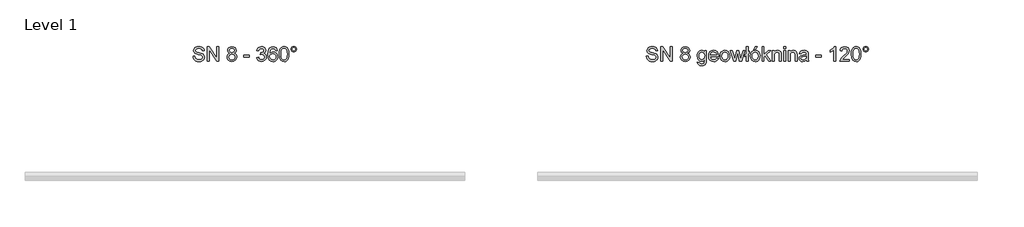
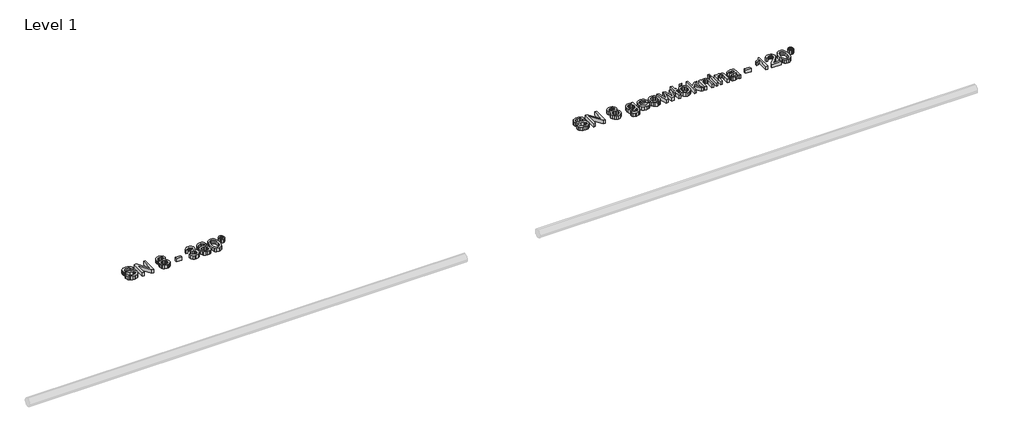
# One storey, part 5 of 9: 2 proxies.
"""IFC4 building model written with IfcOpenShell, lengths in millimetres."""

import ifcopenshell
import ifcopenshell.guid

model = None  # the IFC model being written
_history = None  # IfcOwnerHistory: only IFC2X3 demands one
_inside = {}  # id of a spatial element -> (the spatial element, [elements in it])
_under = {}  # id of a project, library or spatial element -> (it, [spatial elements below it])
_declared = {}  # id of a project -> (the project, [libraries it declares])
_typed = {}  # id of a type object -> (the type object, [elements of that type])
_made_of = {}  # id of a material, layer set ... -> (it, [elements and type objects made of it])


def new_model(schema):
    """Start an empty IFC model of exactly this schema.

    Asked for "IFC4X3", IfcOpenShell would pick the latest addendum, in which some entities
    have other attributes; the version numbers below select the first issue.
    IFC2X3 requires an IfcOwnerHistory on every rooted entity: one is made here for all.
    """
    global model, _history
    if schema == "IFC4X3":
        model = ifcopenshell.file(schema_version=(4, 3, 0, 0))
    else:
        model = ifcopenshell.file(schema=schema)
    _inside.clear()
    _under.clear()
    _declared.clear()
    _typed.clear()
    _made_of.clear()
    _history = None
    if model.schema == "IFC2X3":
        org = make("IfcOrganization", Name="unknown")
        user = make(
            "IfcPersonAndOrganization",
            ThePerson=make("IfcPerson", FamilyName="unknown"),
            TheOrganization=org,
        )
        app = make(
            "IfcApplication",
            ApplicationDeveloper=org,
            Version="unknown",
            ApplicationFullName="unknown",
            ApplicationIdentifier="unknown",
        )
        _history = make(
            "IfcOwnerHistory",
            OwningUser=user,
            OwningApplication=app,
            ChangeAction="ADDED",
            CreationDate=0,
        )
    return model


def make(cls, **values):
    """One entity of the class cls with the attributes given. An attribute that is None is left unset."""
    return model.create_entity(
        cls, **{name: value for name, value in values.items() if value is not None}
    )


def rooted(cls, **values):
    """An entity with a GlobalId (a new one), such as an element, a storey or a relation."""
    return make(cls, GlobalId=ifcopenshell.guid.new(), OwnerHistory=_history, **values)


def si_unit(unit_type, name, prefix=None):
    """IfcSIUnit, for example si_unit("LENGTHUNIT", "METRE", prefix="MILLI")."""
    return make("IfcSIUnit", UnitType=unit_type, Prefix=prefix, Name=name)


def assignment(units):
    """IfcUnitAssignment: the units of a project."""
    return None if units is None else make("IfcUnitAssignment", Units=units)


def point(xyz):
    """IfcCartesianPoint."""
    return None if xyz is None else make("IfcCartesianPoint", Coordinates=xyz)


def direction(xyz):
    """IfcDirection."""
    return None if xyz is None else make("IfcDirection", DirectionRatios=xyz)


def frame(location, z_axis=None, x_axis=None):
    """IfcAxis2Placement3D, a coordinate frame: its origin and axes. An axis left out is left unset."""
    return make(
        "IfcAxis2Placement3D",
        Location=point(location),
        Axis=direction(z_axis),
        RefDirection=direction(x_axis),
    )


def origin():
    """The frame at (0, 0, 0) with its axes left unset."""
    return frame((0.0, 0.0, 0.0))


def origin_with_axes():
    """The frame at (0, 0, 0) with the z axis (0, 0, 1) and the x axis (1, 0, 0) written out."""
    return frame((0.0, 0.0, 0.0), z_axis=(0.0, 0.0, 1.0), x_axis=(1.0, 0.0, 0.0))


def place(relative_to, where):
    """IfcLocalPlacement: puts the frame where relative to a parent placement (None: the world)."""
    return make(
        "IfcLocalPlacement", PlacementRelTo=relative_to, RelativePlacement=where
    )


def context(
    kind, dimensions, precision=None, world=None, true_north=None, identifier=None
):
    """IfcGeometricRepresentationContext, for example the 3D "Model" context."""
    return make(
        "IfcGeometricRepresentationContext",
        ContextIdentifier=identifier,
        ContextType=kind,
        CoordinateSpaceDimension=dimensions,
        Precision=precision,
        WorldCoordinateSystem=world,
        TrueNorth=true_north,
    )


def project(units=None, contexts=None):
    """IfcProject with its units and contexts."""
    return rooted(
        "IfcProject",
        Name="project",
        RepresentationContexts=contexts,
        UnitsInContext=assignment(units),
    )


def spatial(cls, under=None, at=None, **own):
    """A site, building, storey or space (cls), placed at a placement, below another one or the project."""
    s = rooted(cls, ObjectPlacement=at, **own)
    if under is not None:
        _under.setdefault(under.id(), (under, []))[1].append(s)
    return s


def polyline(points):
    """IfcPolyline through the points."""
    return make("IfcPolyline", Points=[point(p) for p in points])


def outline(outer, holes=None, kind="AREA"):
    """IfcArbitraryClosedProfileDef: a profile drawn as a closed curve; with holes, ...WithVoids."""
    if holes is None:
        return make("IfcArbitraryClosedProfileDef", ProfileType=kind, OuterCurve=outer)
    return make(
        "IfcArbitraryProfileDefWithVoids",
        ProfileType=kind,
        OuterCurve=outer,
        InnerCurves=holes,
    )


def extrude(swept, where, along, depth):
    """IfcExtrudedAreaSolid: the profile swept, set in the frame where, extruded along a direction by depth."""
    return make(
        "IfcExtrudedAreaSolid",
        SweptArea=swept,
        Position=where,
        ExtrudedDirection=direction(along),
        Depth=depth,
    )


def shape(context_of_items, identifier, shape_type, items):
    """IfcShapeRepresentation: the items that make up one representation, for example the "Body"."""
    return make(
        "IfcShapeRepresentation",
        ContextOfItems=context_of_items,
        RepresentationIdentifier=identifier,
        RepresentationType=shape_type,
        Items=items,
    )


def made_of(thing, what):
    """Note that an element or type object is made of a material, layer set ...; save() writes the relation."""
    if what is not None:
        _made_of.setdefault(what.id(), (what, []))[1].append(thing)
    return thing


def element(
    cls,
    number,
    at=None,
    inside=None,
    cuts=None,
    type_object=None,
    material=None,
    context=None,
    identifier="Body",
    shape_type=None,
    held_by="IfcProductDefinitionShape",
    body=None,
    shapes=None,
    **own,
):
    """One element of the class cls, such as IfcWall. Its Tag is "e" and its number.

    at: its placement. inside: the storey or other place that contains it. cuts: it is an
    opening in that element (IfcRelVoidsElement). A single representation is given by context,
    identifier, shape_type and body (its items); several are given by shapes. held_by: the class
    of the entity that holds the representations. save() writes the other relations.
    """
    e = rooted(cls, Tag="e%d" % number, ObjectPlacement=at, **own)
    if body is not None:
        shapes = [shape(context, identifier, shape_type, body)]
    if shapes is not None:
        e.Representation = make(held_by, Representations=shapes)
    if inside is not None:
        _inside.setdefault(inside.id(), (inside, []))[1].append(e)
    if cuts is not None:
        rooted(
            "IfcRelVoidsElement", RelatingBuildingElement=cuts, RelatedOpeningElement=e
        )
    if type_object is not None:
        _typed.setdefault(type_object.id(), (type_object, []))[1].append(e)
    return made_of(e, material)


def aggregate(whole, parts):
    """IfcRelAggregates: a whole, such as a stair, and the parts it consists of."""
    return rooted("IfcRelAggregates", RelatingObject=whole, RelatedObjects=parts)


def save(model, path):
    """Write the relations noted so far, then the file.

    IfcRelAggregates (storeys below a building ...), IfcRelContainedInSpatialStructure (elements
    in a storey), IfcRelDefinesByType, IfcRelAssociatesMaterial and IfcRelDeclares: one each for
    every whole, place, type object, material and project.
    """
    for whole, parts in _under.values():
        aggregate(whole, parts)
    for where, things in _inside.values():
        rooted(
            "IfcRelContainedInSpatialStructure",
            RelatedElements=things,
            RelatingStructure=where,
        )
    for kind, things in _typed.values():
        rooted("IfcRelDefinesByType", RelatedObjects=things, RelatingType=kind)
    for what, things in _made_of.values():
        rooted("IfcRelAssociatesMaterial", RelatedObjects=things, RelatingMaterial=what)
    for by, libraries in _declared.values():
        rooted("IfcRelDeclares", RelatingContext=by, RelatedDefinitions=libraries)
    model.write(path)


model = new_model("IFC4")

# Units and contexts
model_context = context("Model", 3, world=origin())
ifc_project = project(units=[si_unit("LENGTHUNIT", "METRE", prefix="MILLI")], contexts=[model_context])

# Site, building, storey
site = spatial("IfcSite", under=ifc_project)
building = spatial("IfcBuilding", under=site)
storey = spatial("IfcBuildingStorey", under=building, Name="Level 1", Elevation=0.0)

# Proxies
placement = place(None, origin())
element("IfcBuildingElementProxy", 1, Name="200mm Arial", ObjectType="200mm Arial", at=placement, inside=storey, context=model_context, shape_type="SweptSolid", body=[
    extrude(outline(polyline([(-742.1398156, 2231.0128426), (-717.0257381, 2231.0128426), (-708.9323342, 2205.8742396), (-700.8021421, 2196.983758), (-689.1648083, 2189.9817374), (-674.9400379, 2185.4383947), (-659.0475357, 2183.9239472), (-632.8052867, 2188.5102094), (-615.8581894, 2201.1162991), (-610.2909086, 2217.9652945), (-614.4602379, 2233.6370675), (-620.8123336, 2239.8358791), (-631.5299624, 2245.0414093), (-668.0974328, 2254.6308667), (-707.4608062, 2267.0162272), (-719.9626627, 2275.4652503), (-728.8224874, 2285.7046325), (-734.1015941, 2297.5136446), (-735.8612963, 2310.6715573), (-733.6846611, 2325.3807057), (-727.1547557, 2339.0965728), (-716.4432583, 2350.7216438), (-701.7218471, 2359.1584042), (-684.0512486, 2364.2903581), (-664.4921892, 2366.0010093), (-643.3021863, 2364.2106503), (-624.7609337, 2358.8395732), (-609.5306191, 2349.9981425), (-598.2734301, 2337.796723), (-591.1487821, 2322.9956041), (-588.3160907, 2306.3550752), (-613.4301683, 2306.3550752), (-618.0409559, 2321.3401351), (-627.6549387, 2332.1558658), (-642.6767869, 2338.7041653), (-663.5111705, 2340.8869318), (-684.8360635, 2338.7286908), (-699.4655042, 2332.2539676), (-707.9267901, 2322.725824), (-710.7472187, 2311.4073212), (-708.7483932, 2301.7565502), (-702.7519167, 2293.9942401), (-688.5761971, 2287.0535332), (-661.745337, 2279.9656734), (-617.305192, 2267.3595837), (-602.988451, 2258.2483729), (-593.0004548, 2247.0034466), (-587.132737, 2233.7474321), (-585.176831, 2218.6029566), (-587.4270426, 2203.121256), (-594.1776772, 2188.5592603), (-605.1528234, 2176.026747), (-620.0765696, 2166.6334934), (-638.0230796, 2160.7657756), (-658.066517, 2158.8098696), (-682.6716911, 2160.9190598), (-702.923595, 2167.2466301), (-719.0552205, 2177.8171061), (-731.2995595, 2192.6550132), (-739.1599715, 2210.7302819), (-742.1398156, 2231.0128426)])), origin_with_axes(), (0.0, 0.0, 1.0), 50.0),
    extrude(outline(polyline([(-547.5057147, 2161.9491293), (-547.5057147, 2362.8617496), (-520.6258036, 2362.8617496), (-415.6568077, 2203.6914731), (-415.6568077, 2362.8617496), (-390.5427301, 2362.8617496), (-390.5427301, 2161.9491293), (-417.4226412, 2161.9491293), (-522.3916372, 2321.1684569), (-522.3916372, 2161.9491293), (-547.5057147, 2161.9491293)])), origin_with_axes(), (0.0, 0.0, 1.0), 50.0),
    extrude(outline(polyline([(-240.9373854, 2272.6080335), (-254.3834723, 2279.2299094), (-263.8196455, 2288.2062301), (-269.3930577, 2299.3530545), (-271.2508618, 2312.4864418), (-267.2041599, 2332.1190776), (-255.064054, 2348.3426736), (-236.1917077, 2359.2319806), (-211.9482842, 2362.8617496), (-187.5577079, 2359.1461415), (-168.4401069, 2347.999317), (-156.0792719, 2331.5182037), (-151.9589935, 2311.7997287), (-153.7922721, 2299.0894058), (-159.292108, 2288.1326537), (-168.5198147, 2279.2115153), (-181.5367059, 2272.6080335), (-166.0795308, 2264.6433883), (-154.8284731, 2252.914084), (-147.9674739, 2237.9842064), (-145.6804741, 2220.4178411), (-150.2176854, 2196.4074096), (-163.8293192, 2176.5663073), (-184.8476439, 2163.2489791), (-211.6049277, 2158.8098696), (-238.3622115, 2163.2673732), (-259.3805361, 2176.6398837), (-272.9921699, 2196.6710583), (-277.5293812, 2221.1045542), (-275.150411, 2239.3515011), (-268.0135003, 2254.3610865), (-256.4865311, 2265.6182756), (-240.9373854, 2272.6080335)]), holes=[polyline([(-246.1367843, 2311.7506778), (-243.9110982, 2300.7877943), (-237.23404, 2292.0322028), (-226.3018134, 2286.2932437), (-211.3106221, 2284.3802573), (-196.6689187, 2286.280981), (-185.9022389, 2291.9831519), (-179.280363, 2300.4444378), (-177.0730711, 2310.6225063), (-179.3539394, 2321.186851), (-186.1965445, 2329.9240483), (-197.1103771, 2335.7917662), (-211.6049277, 2337.7476721), (-226.1914488, 2335.8346857), (-237.0868872, 2330.0957266), (-243.87431, 2321.6834916), (-246.1367843, 2311.7506778)]), polyline([(-252.4153037, 2221.987471), (-248.2214489, 2203.0783364), (-242.4150448, 2194.9665384), (-233.3835418, 2188.9271423), (-211.4087239, 2183.9239472), (-194.3144739, 2186.5543035), (-181.487655, 2194.4453722), (-173.4678275, 2206.3954057), (-170.7945517, 2221.202656), (-173.5536666, 2236.2612924), (-181.8310115, 2248.4749746), (-194.952136, 2256.5683785), (-212.2425898, 2259.2661798), (-229.0977165, 2256.6051667), (-241.7957767, 2248.6221274), (-249.7604219, 2236.6414371), (-252.4153037, 2221.987471)])]), origin_with_axes(), (0.0, 0.0, 1.0), 50.0),
    extrude(outline(polyline([(-51.5026834, 2221.5950635), (-51.5026834, 2246.709141), (26.9788089, 2246.709141), (26.9788089, 2221.5950635), (-51.5026834, 2221.5950635)])), origin_with_axes(), (0.0, 0.0, 1.0), 50.0),
    extrude(outline(polyline([(127.4351191, 2215.3165441), (152.5491966, 2218.4558038), (158.1716598, 2202.6736662), (166.4060851, 2192.0173511), (177.6571428, 2185.9472982), (192.329503, 2183.9239472), (209.5463804, 2186.7075876), (222.8391832, 2195.0585089), (231.3372573, 2207.5174458), (234.1699486, 2222.6251331), (231.3617827, 2236.9663995), (222.937285, 2248.5976019), (210.1840425, 2256.3047297), (194.3896422, 2258.8737723), (176.7803574, 2256.1269201), (179.5762605, 2281.2409976), (183.598437, 2280.946692), (198.6448106, 2282.7493138), (212.0970289, 2288.1571792), (221.5883844, 2297.3051781), (224.7521695, 2310.3282007), (222.4590384, 2321.1745882), (215.5796451, 2329.9730993), (205.0827455, 2335.8040289), (191.9370956, 2337.7476721), (178.7669201, 2335.7856348), (168.0002404, 2329.8995229), (160.1398285, 2320.0893363), (155.6884563, 2306.3550752), (130.5743788, 2309.4943349), (137.9688069, 2332.0455012), (151.1267196, 2348.8822338), (169.1284119, 2359.3668707), (191.0541788, 2362.8617496), (206.8424477, 2361.1388356), (221.3431297, 2355.9700936), (233.5690747, 2347.815376), (242.5331326, 2337.1345354), (248.0329685, 2324.8288827), (249.8662471, 2311.7997287), (248.124939, 2299.6596229), (242.9010146, 2288.6476885), (234.2680505, 2279.2666976), (222.2996229, 2272.0194223), (238.0204468, 2265.6673265), (249.6700433, 2254.8515959), (256.8805305, 2240.1608415), (259.2840262, 2222.1836747), (254.4770348, 2197.7072593), (240.0560605, 2177.2530203), (218.2897092, 2163.4206573), (191.4465862, 2158.8098696), (167.1663746, 2162.746207), (147.3988487, 2174.555219), (133.6523248, 2192.618225), (127.4351191, 2215.3165441)])), origin_with_axes(), (0.0, 0.0, 1.0), 50.0),
    extrude(outline(polyline([(409.9684914, 2309.4943349), (384.8544138, 2306.3550752), (375.3385329, 2327.2998234), (363.9464538, 2335.1357099), (350.1754044, 2337.7476721), (327.5138735, 2331.6653565), (318.0777004, 2322.057505), (310.3705726, 2308.8321473), (305.1650423, 2290.1253478), (303.2336618, 2264.0731712), (313.3074971, 2275.8270009), (325.380158, 2284.1104772), (338.7771939, 2289.0217018), (352.8241548, 2290.6587767), (376.025246, 2286.1828791), (395.4984662, 2272.7551863), (408.7054299, 2252.2396337), (413.1077511, 2226.5001568), (411.0353492, 2208.5168586), (404.8181434, 2191.8456728), (394.9711687, 2177.7067415), (382.0094597, 2167.3202065), (366.5216278, 2160.9374539), (349.0962839, 2158.8098696), (320.6038234, 2164.4507269), (297.9116356, 2181.3732987), (289.2526132, 2194.4821604), (283.0675971, 2211.2453167), (278.1195843, 2255.7345126), (283.6132888, 2305.7542013), (290.4804193, 2324.8319484), (300.0944022, 2339.9549641), (310.5146597, 2349.9766828), (322.5965175, 2357.1350532), (351.7450343, 2362.8617496), (373.7811658, 2359.3178198), (391.4272388, 2348.6860301), (403.7880739, 2331.8002465), (409.9684914, 2309.4943349)]), holes=[polyline([(303.2336618, 2226.8925642), (309.0461974, 2205.1384756), (324.4972412, 2189.3440752), (347.1342466, 2183.9239472), (363.7073305, 2186.7321131), (376.7364845, 2195.1566108), (385.1793763, 2208.4003626), (387.9936735, 2225.6662909), (385.2161645, 2242.2393748), (376.8836373, 2254.8761213), (363.6337541, 2262.8775547), (346.104177, 2265.5446992), (329.5556186, 2262.8775547), (315.7171242, 2254.8761213), (306.3545274, 2242.5459431), (303.2336618, 2226.8925642)])]), origin_with_axes(), (0.0, 0.0, 1.0), 50.0),
    extrude(outline(polyline([(435.0825689, 2260.7867587), (436.9281103, 2292.9457765), (442.4647343, 2318.5932829), (451.6372587, 2338.1216855), (464.3905012, 2351.9233917), (480.8164323, 2360.1271601), (501.0070225, 2362.8617496), (516.4825917, 2361.2430689), (530.3394802, 2356.3870265), (541.9277631, 2348.483695), (550.5975154, 2337.7231466), (562.3697392, 2307.9982814), (566.931476, 2260.7867587), (565.1043287, 2228.811682), (559.622887, 2203.2254892), (550.5055449, 2183.6786925), (537.7706965, 2169.821804), (521.3079772, 2161.5628532), (501.0070225, 2158.8098696), (474.9119263, 2163.5923356), (455.0953495, 2177.9397334), (446.339758, 2193.0688805), (440.0857641, 2211.919767), (435.0825689, 2260.7867587)]), holes=[polyline([(460.1966465, 2260.8358096), (463.1397024, 2221.3314147), (471.9688703, 2198.4675487), (485.1145203, 2187.5598476), (501.0070225, 2183.9239472), (516.8995246, 2187.5721103), (530.0451746, 2198.5165997), (538.8743425, 2221.3927284), (541.8173985, 2260.8358096), (538.9724444, 2299.4511564), (530.4375821, 2322.492832), (517.3164576, 2333.9339621), (500.7127169, 2337.7476721), (484.9918929, 2334.3876832), (472.3612778, 2324.3077165), (463.2378043, 2299.8313011), (460.1966465, 2260.8358096)])]), origin_with_axes(), (0.0, 0.0, 1.0), 50.0),
    extrude(outline(polyline([(595.1848132, 2328.378944), (597.9500595, 2342.8612318), (606.2457985, 2355.0136004), (618.4165612, 2363.2541571), (632.8068786, 2366.0010093), (647.3627429, 2363.2541571), (659.5396369, 2355.0136004), (667.7801936, 2342.8612318), (670.5270458, 2328.378944), (667.7617995, 2313.9150502), (659.4660605, 2301.719762), (647.2707724, 2293.4240231), (632.8068786, 2290.6587767), (618.4165612, 2293.405629), (606.2457985, 2301.6461856), (597.9500595, 2313.8230797), (595.1848132, 2328.378944)]), holes=[polyline([(610.8811117, 2328.329893), (612.4936611, 2319.8808699), (617.3313093, 2312.7807474), (624.4498259, 2307.9614932), (632.9049805, 2306.3550752), (641.2865586, 2307.9614932), (648.3805497, 2312.7807474), (653.218198, 2319.8808699), (654.8307474, 2328.329893), (653.218198, 2336.7789162), (648.3805497, 2343.8790387), (641.2865586, 2348.6982928), (632.9049805, 2350.3047109), (624.4498259, 2348.6982928), (617.3313093, 2343.8790387), (612.4936611, 2336.7789162), (610.8811117, 2328.329893)])]), origin_with_axes(), (0.0, 0.0, 1.0), 50.0),
])
element("IfcBuildingElementProxy", 2, Name="200mm Arial", ObjectType="200mm Arial", at=placement, inside=storey, context=model_context, shape_type="SweptSolid", body=[
    extrude(outline(polyline([(5447.9311838, 2231.0128426), (5473.0452613, 2231.0128426), (5481.1386652, 2205.8742396), (5489.2688573, 2196.983758), (5500.9061911, 2189.9817374), (5515.1309616, 2185.4383947), (5531.0234637, 2183.9239472), (5557.2657127, 2188.5102094), (5574.21281, 2201.1162991), (5579.7800908, 2217.9652945), (5575.6107616, 2233.6370675), (5569.2586658, 2239.8358791), (5558.541037, 2245.0414093), (5521.9735667, 2254.6308667), (5482.6101932, 2267.0162272), (5470.1083367, 2275.4652503), (5461.248512, 2285.7046325), (5455.9694054, 2297.5136446), (5454.2097032, 2310.6715573), (5456.3863383, 2325.3807057), (5462.9162437, 2339.0965728), (5473.6277411, 2350.7216438), (5488.3491523, 2359.1584042), (5506.0197508, 2364.2903581), (5525.5788102, 2366.0010093), (5546.7688131, 2364.2106503), (5565.3100657, 2358.8395732), (5580.5403803, 2349.9981425), (5591.7975694, 2337.796723), (5598.9222173, 2322.9956041), (5601.7549087, 2306.3550752), (5576.6408312, 2306.3550752), (5572.0300435, 2321.3401351), (5562.4160607, 2332.1558658), (5547.3942125, 2338.7041653), (5526.5598289, 2340.8869318), (5505.2349359, 2338.7286908), (5490.6054952, 2332.2539676), (5482.1442093, 2322.725824), (5479.3237807, 2311.4073212), (5481.3226062, 2301.7565502), (5487.3190827, 2293.9942401), (5501.4948023, 2287.0535332), (5528.3256625, 2279.9656734), (5572.7658075, 2267.3595837), (5587.0825484, 2258.2483729), (5597.0705446, 2247.0034466), (5602.9382624, 2233.7474321), (5604.8941684, 2218.6029566), (5602.6439568, 2203.121256), (5595.8933222, 2188.5592603), (5584.918176, 2176.026747), (5569.9944298, 2166.6334934), (5552.0479198, 2160.7657756), (5532.0044824, 2158.8098696), (5507.3993083, 2160.9190598), (5487.1474045, 2167.2466301), (5471.015779, 2177.8171061), (5458.7714399, 2192.6550132), (5450.9110279, 2210.7302819), (5447.9311838, 2231.0128426)])), origin_with_axes(), (0.0, 0.0, 1.0), 50.0),
    extrude(outline(polyline([(5642.5652847, 2161.9491293), (5642.5652847, 2362.8617496), (5669.4451958, 2362.8617496), (5774.4141918, 2203.6914731), (5774.4141918, 2362.8617496), (5799.5282693, 2362.8617496), (5799.5282693, 2161.9491293), (5772.6483582, 2161.9491293), (5667.6793622, 2321.1684569), (5667.6793622, 2161.9491293), (5642.5652847, 2161.9491293)])), origin_with_axes(), (0.0, 0.0, 1.0), 50.0),
    extrude(outline(polyline([(5949.133614, 2272.6080335), (5935.6875271, 2279.2299094), (5926.2513539, 2288.2062301), (5920.6779417, 2299.3530545), (5918.8201376, 2312.4864418), (5922.8668395, 2332.1190776), (5935.0069454, 2348.3426736), (5953.8792917, 2359.2319806), (5978.1227152, 2362.8617496), (6002.5132915, 2359.1461415), (6021.6308925, 2347.999317), (6033.9917276, 2331.5182037), (6038.1120059, 2311.7997287), (6036.2787273, 2299.0894058), (6030.7788915, 2288.1326537), (6021.5511848, 2279.2115153), (6008.5342935, 2272.6080335), (6023.9914687, 2264.6433883), (6035.2425263, 2252.914084), (6042.1035255, 2237.9842064), (6044.3905253, 2220.4178411), (6039.853314, 2196.4074096), (6026.2416802, 2176.5663073), (6005.2233555, 2163.2489791), (5978.4660717, 2158.8098696), (5951.708788, 2163.2673732), (5930.6904633, 2176.6398837), (5917.0788295, 2196.6710583), (5912.5416182, 2221.1045542), (5914.9205884, 2239.3515011), (5922.0574992, 2254.3610865), (5933.5844683, 2265.6182756), (5949.133614, 2272.6080335)]), holes=[polyline([(5943.9342151, 2311.7506778), (5946.1599012, 2300.7877943), (5952.8369594, 2292.0322028), (5963.769186, 2286.2932437), (5978.7603773, 2284.3802573), (5993.4020808, 2286.280981), (6004.1687605, 2291.9831519), (6010.7906364, 2300.4444378), (6012.9979284, 2310.6225063), (6010.71706, 2321.186851), (6003.8744549, 2329.9240483), (5992.9606224, 2335.7917662), (5978.4660717, 2337.7476721), (5963.8795506, 2335.8346857), (5952.9841122, 2330.0957266), (5946.1966894, 2321.6834916), (5943.9342151, 2311.7506778)]), polyline([(5937.6556958, 2221.987471), (5941.8495505, 2203.0783364), (5947.6559547, 2194.9665384), (5956.6874576, 2188.9271423), (5978.6622755, 2183.9239472), (5995.7565255, 2186.5543035), (6008.5833444, 2194.4453722), (6016.6031719, 2206.3954057), (6019.2764477, 2221.202656), (6016.5173328, 2236.2612924), (6008.2399879, 2248.4749746), (5995.1188634, 2256.5683785), (5977.8284096, 2259.2661798), (5960.9732829, 2256.6051667), (5948.2752227, 2248.6221274), (5940.3105775, 2236.6414371), (5937.6556958, 2221.987471)])]), origin_with_axes(), (0.0, 0.0, 1.0), 50.0),
    extrude(outline(polyline([(6144.8468354, 2149.3920906), (6169.960913, 2146.2528309), (6172.7322907, 2138.4046817), (6178.1033678, 2133.0090791), (6188.6615811, 2128.8152243), (6202.4816813, 2127.4172727), (6217.2214866, 2128.9991653), (6228.1843701, 2133.744843), (6235.7872646, 2141.3477376), (6240.4471032, 2151.5012807), (6242.1638859, 2180.7846875), (6224.4810247, 2166.6580189), (6202.9231397, 2161.9491293), (6177.0303786, 2167.4305711), (6157.7227053, 2183.8748963), (6145.7113581, 2207.9834297), (6141.7075757, 2236.4574961), (6143.5040662, 2256.7339254), (6148.8935374, 2275.3794112), (6157.6859171, 2291.1799429), (6169.6911328, 2302.9215099), (6184.4983831, 2310.2055734), (6201.6968664, 2312.6335946), (6224.1008799, 2307.1398901), (6242.1638859, 2290.6587767), (6242.1638859, 2309.4943349), (6267.2779634, 2309.4943349), (6267.2779634, 2182.1090627), (6265.5611808, 2152.6968972), (6260.4108329, 2133.3279101), (6251.5387454, 2120.4826971), (6238.6567442, 2110.6418537), (6222.0468721, 2104.3878598), (6201.991172, 2102.3031952), (6178.624534, 2105.2401198), (6160.2243028, 2114.0508936), (6148.4214222, 2128.760042), (6144.8468354, 2149.3920906)]), holes=[polyline([(6166.8216533, 2238.1742787), (6169.5010605, 2215.1387345), (6177.5392821, 2199.3014146), (6189.6242056, 2190.1227588), (6204.4437187, 2187.0632069), (6219.1528671, 2190.1043647), (6231.2991043, 2199.2278382), (6239.4476905, 2214.862823), (6242.1638859, 2237.4385148), (6239.3679827, 2259.2109975), (6230.9802732, 2274.8889019), (6218.6562264, 2284.3618632), (6204.0513112, 2287.519517), (6189.7100447, 2284.4109142), (6177.6864349, 2275.0851056), (6169.5378487, 2259.6401932), (6166.8216533, 2238.1742787)])]), origin_with_axes(), (0.0, 0.0, 1.0), 50.0),
    extrude(outline(polyline([(6408.250344, 2205.898765), (6432.8739122, 2202.7595053), (6424.0018247, 2184.2059901), (6409.8444993, 2170.3368388), (6390.7207669, 2161.6916119), (6366.9494587, 2158.8098696), (6337.4821108, 2163.782408), (6314.8083172, 2178.7000229), (6300.3505548, 2202.5939584), (6295.5313007, 2234.4954588), (6300.3996057, 2267.4699483), (6315.0045209, 2292.1303047), (6337.3717462, 2307.5077721), (6365.5269816, 2312.6335946), (6392.8054315, 2307.5200348), (6414.6024398, 2292.1793556), (6428.8946553, 2267.5680502), (6433.6587271, 2234.6426116), (6433.5115743, 2227.8735829), (6320.6453782, 2227.8735829), (6324.9925171, 2209.0748129), (6335.0908779, 2195.2547126), (6349.6651362, 2186.7566385), (6367.439968, 2183.9239472), (6392.0635362, 2189.172397), (6401.2115351, 2195.9782139), (6408.250344, 2205.898765)]), holes=[polyline([(6320.6453782, 2252.9876604), (6408.5446496, 2252.9876604), (6405.1478725, 2266.2559377), (6398.4892084, 2275.7472932), (6383.847505, 2284.5764611), (6365.4288797, 2287.519517), (6348.5001766, 2285.1712036), (6334.5022667, 2278.1262634), (6324.7717879, 2267.1449859), (6320.6453782, 2252.9876604)])]), origin_with_axes(), (0.0, 0.0, 1.0), 50.0),
    extrude(outline(polyline([(6452.4942853, 2235.7217321), (6457.9266761, 2271.295921), (6464.7171646, 2285.119087), (6474.2238484, 2296.299634), (6494.3592563, 2308.5501044), (6518.4677897, 2312.6335946), (6544.8510602, 2307.6610563), (6565.9245671, 2292.7434414), (6579.738536, 2269.0579722), (6584.3431923, 2237.7818713), (6582.3075786, 2212.4102763), (6576.2007375, 2193.0964716), (6566.2004786, 2178.6325778), (6552.4846116, 2167.8107158), (6536.1935705, 2161.0600812), (6518.4677897, 2158.8098696), (6491.7656883, 2163.7640139), (6470.7167068, 2178.6264465), (6457.0498906, 2202.8085563), (6452.4942853, 2235.7217321)]), holes=[polyline([(6477.6083628, 2235.770783), (6480.5146306, 2213.0418071), (6489.2334339, 2196.848868), (6502.3545583, 2187.1551774), (6518.4677897, 2183.9239472), (6534.5074447, 2187.1735715), (6547.6040438, 2196.9224443), (6556.322847, 2213.3299813), (6559.2291148, 2236.555598), (6556.3044529, 2258.6223863), (6547.5304674, 2274.5945963), (6534.4154742, 2284.2882868), (6518.4677897, 2287.519517), (6502.3545583, 2284.3005496), (6489.2334339, 2274.6436472), (6480.5146306, 2258.4874962), (6477.6083628, 2235.770783)])]), origin_with_axes(), (0.0, 0.0, 1.0), 50.0),
    extrude(outline(polyline([(6637.072945, 2161.9491293), (6592.1913416, 2309.4943349), (6618.2864378, 2309.4943349), (6643.7438718, 2223.409948), (6651.3467664, 2192.6550132), (6657.5762348, 2222.2817766), (6677.83427, 2309.4943349), (6707.755339, 2309.4943349), (6727.9152723, 2222.5270312), (6733.4580277, 2195.696171), (6741.4042788, 2223.9985592), (6766.9107638, 2309.4943349), (6793.1039619, 2309.4943349), (6747.8790019, 2161.9491293), (6717.5164746, 2161.9491293), (6698.239458, 2248.4749746), (6692.6476517, 2275.4529876), (6667.7788288, 2161.9491293), (6637.072945, 2161.9491293)])), origin_with_axes(), (0.0, 0.0, 1.0), 50.0),
    extrude(outline(polyline([(6810.3698902, 2241.3625894), (6791.534332, 2226.303953), (6791.534332, 2254.5572903), (6810.3698902, 2269.6159266), (6810.3698902, 2362.8617496), (6835.4839677, 2362.8617496), (6835.4839677, 2289.726809), (6854.3195259, 2304.7854453), (6854.3195259, 2276.5321081), (6835.4839677, 2261.4734718), (6835.4839677, 2161.9491293), (6810.3698902, 2161.9491293), (6810.3698902, 2241.3625894)])), origin_with_axes(), (0.0, 0.0, 1.0), 50.0),
    extrude(outline(polyline([(6913.96546, 2325.1906333), (6932.8010182, 2362.8617496), (6964.1936151, 2362.8617496), (6932.8010182, 2325.1906333), (6913.96546, 2325.1906333)])), origin_with_axes(), (0.0, 0.0, 1.0), 50.0),
    extrude(outline(polyline([(6866.8765646, 2235.7217321), (6872.3089554, 2271.295921), (6879.0994439, 2285.119087), (6888.6061278, 2296.299634), (6908.7415357, 2308.5501044), (6932.8500691, 2312.6335946), (6959.2333395, 2307.6610563), (6980.3068465, 2292.7434414), (6994.1208154, 2269.0579722), (6998.7254717, 2237.7818713), (6996.689858, 2212.4102763), (6990.5830169, 2193.0964716), (6980.582758, 2178.6325778), (6966.8668909, 2167.8107158), (6950.5758499, 2161.0600812), (6932.8500691, 2158.8098696), (6906.1479676, 2163.7640139), (6885.0989861, 2178.6264465), (6871.43217, 2202.8085563), (6866.8765646, 2235.7217321)]), holes=[polyline([(6891.9906422, 2235.770783), (6894.8969099, 2213.0418071), (6903.6157132, 2196.848868), (6916.7368377, 2187.1551774), (6932.8500691, 2183.9239472), (6948.8897241, 2187.1735715), (6961.9863231, 2196.9224443), (6970.7051264, 2213.3299813), (6973.6113942, 2236.555598), (6970.6867323, 2258.6223863), (6961.9127467, 2274.5945963), (6948.7977536, 2284.2882868), (6932.8500691, 2287.519517), (6916.7368377, 2284.3005496), (6903.6157132, 2274.6436472), (6894.8969099, 2258.4874962), (6891.9906422, 2235.770783)])]), origin_with_axes(), (0.0, 0.0, 1.0), 50.0),
    extrude(outline(polyline([(7026.9788089, 2161.9491293), (7026.9788089, 2362.8617496), (7052.0928865, 2362.8617496), (7052.0928865, 2254.9006468), (7108.4033572, 2309.4943349), (7143.1314175, 2309.4943349), (7086.1342338, 2254.2139337), (7146.2706772, 2161.9491293), (7116.9382195, 2161.9491293), (7068.1325415, 2236.7518017), (7052.0928865, 2221.202656), (7052.0928865, 2161.9491293), (7026.9788089, 2161.9491293)])), origin_with_axes(), (0.0, 0.0, 1.0), 50.0),
    extrude(outline(polyline([(7168.2454951, 2161.9491293), (7168.2454951, 2309.4943349), (7193.3595726, 2309.4943349), (7193.3595726, 2288.8929431), (7202.0845073, 2299.2794781), (7212.5630128, 2306.6984317), (7224.7950891, 2311.1498039), (7238.7807363, 2312.6335946), (7262.4968622, 2307.8511286), (7278.68367, 2295.2940899), (7286.2129882, 2276.8264137), (7287.5373634, 2252.546202), (7287.5373634, 2161.9491293), (7262.4232858, 2161.9491293), (7262.4232858, 2249.1616877), (7259.5292808, 2271.3817602), (7249.3021614, 2283.1294586), (7232.0607585, 2287.519517), (7217.3516101, 2285.0547077), (7204.8129654, 2277.6602796), (7196.2229208, 2263.3741954), (7193.3595726, 2240.2344179), (7193.3595726, 2161.9491293), (7168.2454951, 2161.9491293)])), origin_with_axes(), (0.0, 0.0, 1.0), 50.0),
    extrude(outline(polyline([(7322.06922, 2337.7476721), (7322.06922, 2362.8617496), (7347.1832975, 2362.8617496), (7347.1832975, 2337.7476721), (7322.06922, 2337.7476721)])), origin_with_axes(), (0.0, 0.0, 1.0), 50.0),
    extrude(outline(polyline([(7322.06922, 2161.9491293), (7322.06922, 2309.4943349), (7347.1832975, 2309.4943349), (7347.1832975, 2161.9491293), (7322.06922, 2161.9491293)])), origin_with_axes(), (0.0, 0.0, 1.0), 50.0),
    extrude(outline(polyline([(7384.8544138, 2161.9491293), (7384.8544138, 2309.4943349), (7409.9684914, 2309.4943349), (7409.9684914, 2288.8929431), (7418.693426, 2299.2794781), (7429.1719315, 2306.6984317), (7441.4040079, 2311.1498039), (7455.3896551, 2312.6335946), (7479.105781, 2307.8511286), (7495.2925888, 2295.2940899), (7502.821907, 2276.8264137), (7504.1462821, 2252.546202), (7504.1462821, 2161.9491293), (7479.0322046, 2161.9491293), (7479.0322046, 2249.1616877), (7476.1381996, 2271.3817602), (7465.9110801, 2283.1294586), (7448.6696773, 2287.519517), (7433.9605288, 2285.0547077), (7421.4218842, 2277.6602796), (7412.8318396, 2263.3741954), (7409.9684914, 2240.2344179), (7409.9684914, 2161.9491293), (7384.8544138, 2161.9491293)])), origin_with_axes(), (0.0, 0.0, 1.0), 50.0),
    extrude(outline(polyline([(7632.8559295, 2180.7846875), (7608.5021414, 2163.7640139), (7581.5977049, 2158.8098696), (7560.610037, 2161.7897138), (7545.1283364, 2170.7292463), (7535.5817986, 2184.3040919), (7532.3996194, 2201.1898755), (7537.2066108, 2221.0555032), (7549.8372259, 2235.4764774), (7567.4219853, 2243.7170341), (7589.1515485, 2247.493956), (7632.7087767, 2256.1269201), (7632.8559295, 2261.7187264), (7631.1268841, 2272.9268646), (7625.939748, 2280.259979), (7614.3392024, 2285.7046325), (7598.1769201, 2287.519517), (7583.2163856, 2286.3116378), (7572.768537, 2282.6880002), (7565.643889, 2275.9864165), (7560.6529566, 2265.5446992), (7535.5388791, 2268.6839589), (7546.4036607, 2293.2094252), (7555.6620242, 2301.4622446), (7568.2803766, 2307.5813485), (7601.4142817, 2312.6335946), (7631.8503854, 2308.1699597), (7649.0427373, 2296.9618216), (7656.7437337, 2279.9166225), (7657.9700071, 2257.9418046), (7657.9700071, 2226.6963605), (7659.2453313, 2183.0655559), (7664.2485264, 2161.9491293), (7639.1344489, 2161.9491293), (7632.8559295, 2180.7846875)]), holes=[polyline([(7632.8559295, 2231.0128426), (7592.3398591, 2223.3118461), (7570.7329233, 2219.2406187), (7560.9472622, 2212.6187428), (7557.5136969, 2202.9557091), (7559.3837637, 2195.4877046), (7564.9939641, 2189.3686007), (7574.2216709, 2185.2851106), (7586.9442565, 2183.9239472), (7600.433263, 2185.426132), (7612.3526397, 2189.9326864), (7628.7356512, 2204.476288), (7632.7087767, 2223.9004573), (7632.8559295, 2231.0128426)])]), origin_with_axes(), (0.0, 0.0, 1.0), 50.0),
    extrude(outline(polyline([(7758.4263172, 2221.5950635), (7758.4263172, 2246.709141), (7836.9078095, 2246.709141), (7836.9078095, 2221.5950635), (7758.4263172, 2221.5950635)])), origin_with_axes(), (0.0, 0.0, 1.0), 50.0),
    extrude(outline(polyline([(8031.5419104, 2161.9491293), (8006.4278329, 2161.9491293), (8006.4278329, 2318.5197065), (7982.6381305, 2301.5726092), (7956.1996778, 2288.8929431), (7956.1996778, 2312.6335946), (7993.0124028, 2336.1289913), (8006.4830152, 2349.7038369), (8015.3551026, 2362.8617496), (8031.5419104, 2362.8617496), (8031.5419104, 2161.9491293)])), origin_with_axes(), (0.0, 0.0, 1.0), 50.0),
    extrude(outline(polyline([(8219.897492, 2187.0632069), (8219.897492, 2161.9491293), (8088.0485849, 2161.9491293), (8090.7463862, 2179.2641086), (8106.0012263, 2205.9232905), (8137.4428741, 2235.0350191), (8180.8038986, 2276.8754646), (8188.9340907, 2291.2964388), (8191.6441547, 2305.3250056), (8189.0873749, 2317.9004385), (8181.4170353, 2328.3544185), (8169.6264173, 2335.3993587), (8154.7088024, 2337.7476721), (8139.0431608, 2335.454541), (8126.8723981, 2328.5751477), (8119.0181175, 2317.6490524), (8116.3019221, 2303.2158155), (8091.1878446, 2306.3550752), (8097.2762916, 2330.6475496), (8110.4403357, 2348.3917245), (8129.9932637, 2359.2442434), (8155.2483627, 2362.8617496), (8180.6874026, 2358.8395732), (8200.2035425, 2346.7730437), (8212.6195598, 2328.746826), (8216.7582323, 2306.8455845), (8212.2945974, 2283.0313567), (8197.4566903, 2258.4077885), (8161.4778311, 2223.9985592), (8132.5868318, 2199.8409748), (8121.2560663, 2187.0632069), (8219.897492, 2187.0632069)])), origin_with_axes(), (0.0, 0.0, 1.0), 50.0),
    extrude(outline(polyline([(8245.0115695, 2260.7867587), (8246.8571108, 2292.9457765), (8252.3937349, 2318.5932829), (8261.5662593, 2338.1216855), (8274.3195018, 2351.9233917), (8290.7454329, 2360.1271601), (8310.936023, 2362.8617496), (8326.4115923, 2361.2430689), (8340.2684808, 2356.3870265), (8351.8567636, 2348.483695), (8360.526516, 2337.7231466), (8372.2987398, 2307.9982814), (8376.8604766, 2260.7867587), (8375.0333293, 2228.811682), (8369.5518876, 2203.2254892), (8360.4345455, 2183.6786925), (8347.6996971, 2169.821804), (8331.2369778, 2161.5628532), (8310.936023, 2158.8098696), (8284.8409268, 2163.5923356), (8265.02435, 2177.9397334), (8256.2687586, 2193.0688805), (8250.0147646, 2211.919767), (8245.0115695, 2260.7867587)]), holes=[polyline([(8270.125647, 2260.8358096), (8273.068703, 2221.3314147), (8281.8978709, 2198.4675487), (8295.0435208, 2187.5598476), (8310.936023, 2183.9239472), (8326.8285252, 2187.5721103), (8339.9741752, 2198.5165997), (8348.8033431, 2221.3927284), (8351.746399, 2260.8358096), (8348.9014449, 2299.4511564), (8340.3665826, 2322.492832), (8327.2454582, 2333.9339621), (8310.6417174, 2337.7476721), (8294.9208935, 2334.3876832), (8282.2902783, 2324.3077165), (8273.1668049, 2299.8313011), (8270.125647, 2260.8358096)])]), origin_with_axes(), (0.0, 0.0, 1.0), 50.0),
    extrude(outline(polyline([(8405.1138138, 2328.378944), (8407.8790601, 2342.8612318), (8416.1747991, 2355.0136004), (8428.3455618, 2363.2541571), (8442.7358792, 2366.0010093), (8457.2917434, 2363.2541571), (8469.4686375, 2355.0136004), (8477.7091942, 2342.8612318), (8480.4560464, 2328.378944), (8477.6908001, 2313.9150502), (8469.3950611, 2301.719762), (8457.199773, 2293.4240231), (8442.7358792, 2290.6587767), (8428.3455618, 2293.405629), (8416.1747991, 2301.6461856), (8407.8790601, 2313.8230797), (8405.1138138, 2328.378944)]), holes=[polyline([(8420.8101123, 2328.329893), (8422.4226617, 2319.8808699), (8427.2603099, 2312.7807474), (8434.3788265, 2307.9614932), (8442.833981, 2306.3550752), (8451.2155592, 2307.9614932), (8458.3095503, 2312.7807474), (8463.1471985, 2319.8808699), (8464.759748, 2328.329893), (8463.1471985, 2336.7789162), (8458.3095503, 2343.8790387), (8451.2155592, 2348.6982928), (8442.833981, 2350.3047109), (8434.3788265, 2348.6982928), (8427.2603099, 2343.8790387), (8422.4226617, 2336.7789162), (8420.8101123, 2328.329893)])]), origin_with_axes(), (0.0, 0.0, 1.0), 50.0),
])

save(model, "model.ifc")
